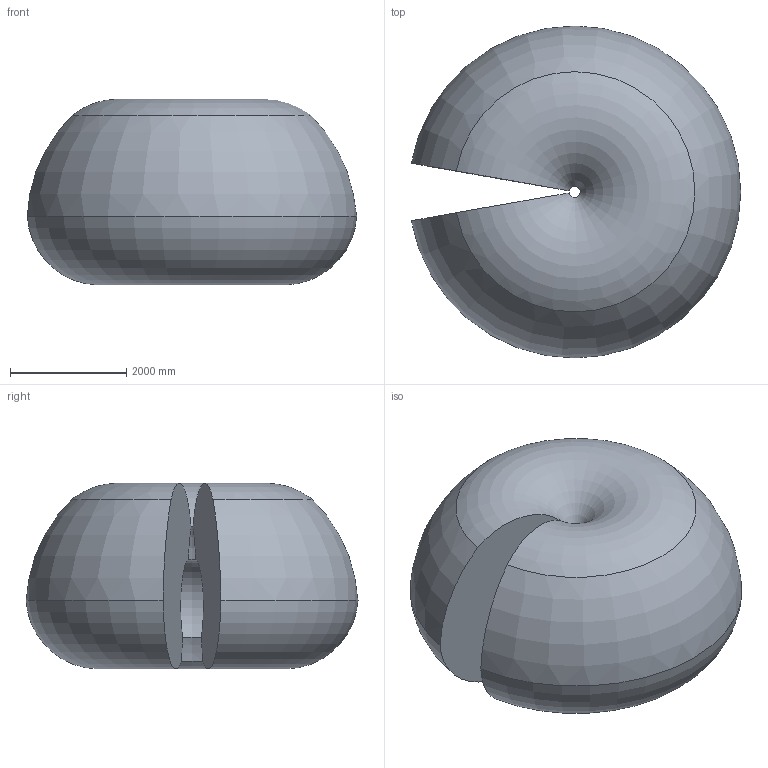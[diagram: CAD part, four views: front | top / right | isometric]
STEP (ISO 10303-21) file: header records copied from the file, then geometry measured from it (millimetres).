
FILE_DESCRIPTION (( 'STEP AP214' ), '1' );
FILE_NAME ('IRB7710_All-285_OC_00_Working-space.step', '2026-01-28T09:31:16', ( '' ), ( '' ), 'SwSTEP 2.0', 'SolidWorks 2024', '' );
FILE_SCHEMA (( 'AUTOMOTIVE_DESIGN' ));
Length unit declared in the file: millimetre
Products named in the file (1): IRB7710_All-285_OC_00_Working-space
Bounding box: 5667.14 x 5710.52 x 3193.06 mm (x, y, z)
Volume: 54689919724.7 mm3; surface area: 99851133.2 mm2
Topology: 1 solids, 1 shells, 8 faces, 18 edges, 12 vertices
Faces by surface type: torus 6, plane 2
Entity records: 263 total; most frequent: DIRECTION 54, CARTESIAN_POINT 39, ORIENTED_EDGE 36, AXIS2_PLACEMENT_3D 27, CIRCLE 18, EDGE_CURVE 18, VERTEX_POINT 12, EDGE_LOOP 8
